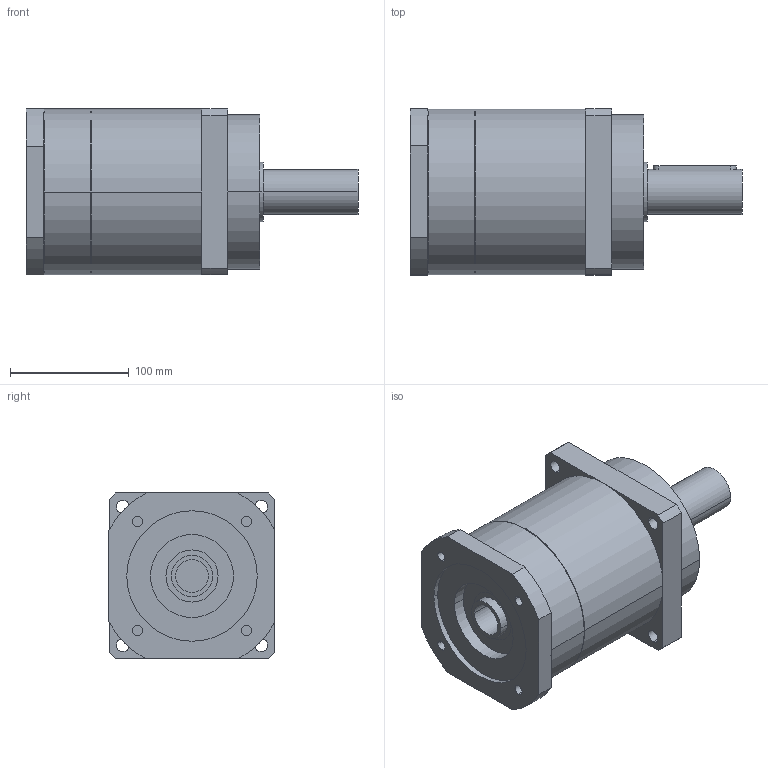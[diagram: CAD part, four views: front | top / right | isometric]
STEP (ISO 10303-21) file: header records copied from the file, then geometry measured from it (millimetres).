
FILE_DESCRIPTION(('CoCreate Modeling STEP Export'),'2;1');
FILE_NAME('GPR150_ig-3-4-5-7_38_B5_28_P04.stp','2014-08-19T16:42:40',(''),(''),'CoCreate Modeling STEP processor for AP214 (Solid Model)','CoCreate Modeling 16.00C 25-Feb-2009 (C) Parametric Technology GmbH','');
FILE_SCHEMA(('AUTOMOTIVE_DESIGN { 1 0 10303 214 1 1 1 1 }'));
Length unit declared in the file: millimetre
Products named in the file (2): GPR150_ig-3-4-5-7_38_B5_28_P04
Assembly tree (1 placements, depth 2):
  GPR150_ig-3-4-5-7_38_B5_28_P04
    GPR150_ig-3-4-5-7_38_B5_28_P04
Bounding box: 280 x 140 x 140 mm (x, y, z)
Volume: 3065309.5 mm3; surface area: 161096.6 mm2
Topology: 1 solids, 1 shells, 97 faces, 263 edges, 177 vertices
Faces by surface type: cylinder 56, plane 35, cone 6
Entity records: 2693 total; most frequent: ORIENTED_EDGE 522, CARTESIAN_POINT 487, DIRECTION 380, EDGE_CURVE 261, VERTEX_POINT 177, AXIS2_PLACEMENT_3D 142, EDGE_LOOP 124, FACE_OUTER_BOUND 97
